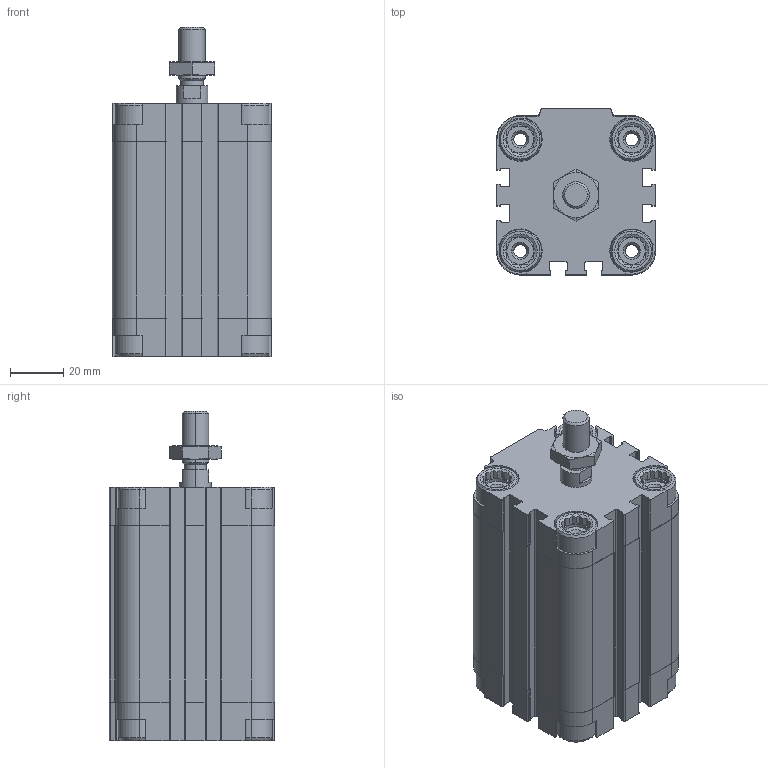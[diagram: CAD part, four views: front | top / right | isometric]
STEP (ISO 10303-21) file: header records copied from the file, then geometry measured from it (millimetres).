
FILE_DESCRIPTION (( 'STEP AP203' ), '1' );
FILE_NAME ('CDVU40-50.STEP', '2020-03-19T11:35:26', ( '' ), ( '' ), 'SwSTEP 2.0', 'SolidWorks 2019', '' );
FILE_SCHEMA (( 'CONFIG_CONTROL_DESIGN' ));
Length unit declared in the file: millimetre
Products named in the file (1): CDVU40-50
Bounding box: 60 x 62.5 x 124 mm (x, y, z)
Volume: 249106 mm3; surface area: 66818.2 mm2
Topology: 3 solids, 3 shells, 727 faces, 1932 edges, 1246 vertices
Faces by surface type: plane 425, cylinder 232, cone 70
Entity records: 22975 total; most frequent: CARTESIAN_POINT 4762, ORIENTED_EDGE 3856, DIRECTION 3712, EDGE_CURVE 1928, AXIS2_PLACEMENT_3D 1260, VERTEX_POINT 1246, VECTOR 1192, LINE 1192
